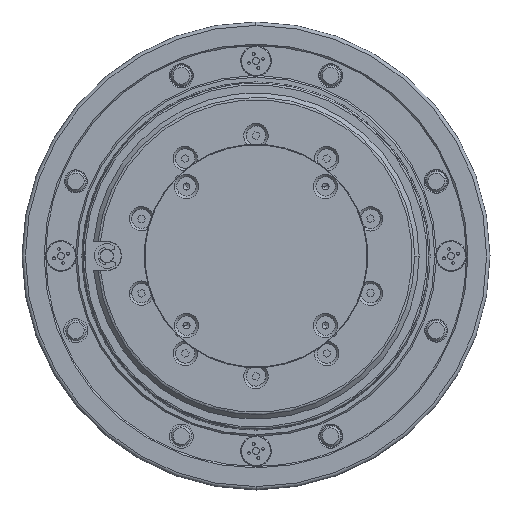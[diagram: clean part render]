
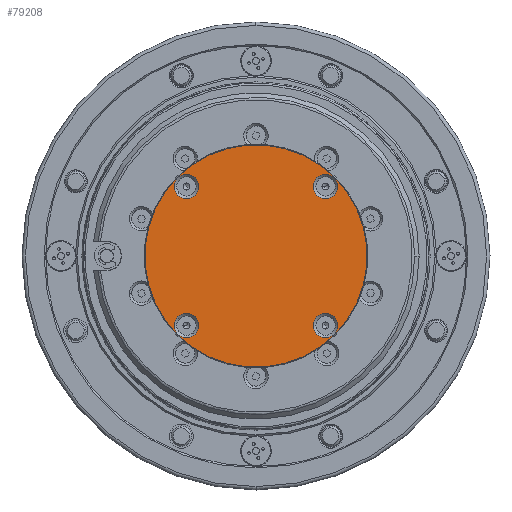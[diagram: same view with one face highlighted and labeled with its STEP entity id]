
A CAD part, left-side view. The second image highlights one B-rep face of the part: STEP entity #79208.
In plain terms, the highlighted planar face has unit normal (-1, 0, 0).
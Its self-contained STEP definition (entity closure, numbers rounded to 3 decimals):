
#44 = CARTESIAN_POINT ( 'NONE',  ( -26.329, 30.945, 17.961 ) ) ;
#512 = ORIENTED_EDGE ( 'NONE', *, *, #27270, .F. ) ;
#1016 = DIRECTION ( 'NONE',  ( -1., 0., 0. ) ) ;
#1201 = ORIENTED_EDGE ( 'NONE', *, *, #59165, .F. ) ;
#2564 = CIRCLE ( 'NONE', #5667, 3.6 ) ;
#2947 = VERTEX_POINT ( 'NONE', #87297 ) ;
#4201 = CARTESIAN_POINT ( 'NONE',  ( -26.329, 31.086, 23.193 ) ) ;
#4727 = CARTESIAN_POINT ( 'NONE',  ( -26.329, -12.613, 20.506 ) ) ;
#5667 = AXIS2_PLACEMENT_3D ( 'NONE', #92211, #110101, #83020 ) ;
#5922 = PLANE ( 'NONE',  #12122 ) ;
#6144 = CIRCLE ( 'NONE', #106060, 32.8 ) ;
#7225 = AXIS2_PLACEMENT_3D ( 'NONE', #32505, #110785, #31013 ) ;
#8671 = CARTESIAN_POINT ( 'NONE',  ( -26.329, 30.945, -17.961 ) ) ;
#9413 = DIRECTION ( 'NONE',  ( -1., 0., 0. ) ) ;
#10889 = CIRCLE ( 'NONE', #12951, 3.6 ) ;
#11512 = VERTEX_POINT ( 'NONE', #8671 ) ;
#12019 = ORIENTED_EDGE ( 'NONE', *, *, #93144, .T. ) ;
#12122 = AXIS2_PLACEMENT_3D ( 'NONE', #67040, #103750, #95366 ) ;
#12793 = VERTEX_POINT ( 'NONE', #4201 ) ;
#12885 = EDGE_CURVE ( 'NONE', #11512, #2947, #31906, .T. ) ;
#12951 = AXIS2_PLACEMENT_3D ( 'NONE', #37502, #20663, #29449 ) ;
#13553 = DIRECTION ( 'NONE',  ( -1., 0., 0. ) ) ;
#17104 = FACE_BOUND ( 'NONE', #46195, .T. ) ;
#17317 = DIRECTION ( 'NONE',  ( 0., -0.707, 0.707 ) ) ;
#17568 = ORIENTED_EDGE ( 'NONE', *, *, #59464, .F. ) ;
#17689 = DIRECTION ( 'NONE',  ( 0., -0.707, 0.707 ) ) ;
#18041 = EDGE_LOOP ( 'NONE', ( #32983, #90689 ) ) ;
#18056 = AXIS2_PLACEMENT_3D ( 'NONE', #35854, #1016, #89667 ) ;
#18255 = CARTESIAN_POINT ( 'NONE',  ( -26.329, 7.893, 0. ) ) ;
#19201 = CIRCLE ( 'NONE', #35366, 3.6 ) ;
#20537 = CIRCLE ( 'NONE', #82244, 3.6 ) ;
#20663 = DIRECTION ( 'NONE',  ( -1., 0., 0. ) ) ;
#20812 = CARTESIAN_POINT ( 'NONE',  ( -26.329, 28.399, 20.506 ) ) ;
#22560 = FACE_BOUND ( 'NONE', #65501, .T. ) ;
#23956 = EDGE_CURVE ( 'NONE', #2947, #11512, #2564, .T. ) ;
#25735 = DIRECTION ( 'NONE',  ( -1., 0., 0. ) ) ;
#25862 = DIRECTION ( 'NONE',  ( 0., 0.707, 0.707 ) ) ;
#26139 = CARTESIAN_POINT ( 'NONE',  ( -26.329, -10.068, -23.052 ) ) ;
#26389 = CIRCLE ( 'NONE', #54984, 3.6 ) ;
#27270 = EDGE_CURVE ( 'NONE', #67850, #30898, #26389, .T. ) ;
#29449 = DIRECTION ( 'NONE',  ( 0., 0.707, -0.707 ) ) ;
#30341 = DIRECTION ( 'NONE',  ( 0., 0.707, -0.707 ) ) ;
#30860 = CARTESIAN_POINT ( 'NONE',  ( -26.329, -15.159, -17.961 ) ) ;
#30898 = VERTEX_POINT ( 'NONE', #84058 ) ;
#31013 = DIRECTION ( 'NONE',  ( 0., -0.707, -0.707 ) ) ;
#31906 = CIRCLE ( 'NONE', #7225, 3.6 ) ;
#32087 = FACE_BOUND ( 'NONE', #18041, .T. ) ;
#32505 = CARTESIAN_POINT ( 'NONE',  ( -26.329, 28.399, -20.506 ) ) ;
#32983 = ORIENTED_EDGE ( 'NONE', *, *, #63525, .F. ) ;
#35091 = EDGE_CURVE ( 'NONE', #109130, #51725, #75942, .T. ) ;
#35366 = AXIS2_PLACEMENT_3D ( 'NONE', #42979, #70098, #25862 ) ;
#35854 = CARTESIAN_POINT ( 'NONE',  ( -26.329, 7.893, 0. ) ) ;
#37502 = CARTESIAN_POINT ( 'NONE',  ( -26.329, 28.399, 20.506 ) ) ;
#40255 = DIRECTION ( 'NONE',  ( 0., 0.707, 0.707 ) ) ;
#42979 = CARTESIAN_POINT ( 'NONE',  ( -26.329, -12.613, 20.506 ) ) ;
#43225 = CARTESIAN_POINT ( 'NONE',  ( -26.329, -12.613, -20.506 ) ) ;
#43875 = CARTESIAN_POINT ( 'NONE',  ( -26.329, -10.068, 23.052 ) ) ;
#43977 = DIRECTION ( 'NONE',  ( -1., 0., 0. ) ) ;
#45250 = CARTESIAN_POINT ( 'NONE',  ( -26.329, -15.3, -23.193 ) ) ;
#45749 = FACE_BOUND ( 'NONE', #76723, .T. ) ;
#46195 = EDGE_LOOP ( 'NONE', ( #50856, #48131 ) ) ;
#48131 = ORIENTED_EDGE ( 'NONE', *, *, #12885, .F. ) ;
#50856 = ORIENTED_EDGE ( 'NONE', *, *, #23956, .F. ) ;
#51725 = VERTEX_POINT ( 'NONE', #30860 ) ;
#54984 = AXIS2_PLACEMENT_3D ( 'NONE', #20812, #13553, #30341 ) ;
#57353 = VERTEX_POINT ( 'NONE', #64990 ) ;
#59165 = EDGE_CURVE ( 'NONE', #51725, #109130, #64171, .T. ) ;
#59464 = EDGE_CURVE ( 'NONE', #30898, #67850, #10889, .T. ) ;
#60590 = DIRECTION ( 'NONE',  ( 0., -0.707, -0.707 ) ) ;
#63409 = FACE_OUTER_BOUND ( 'NONE', #102247, .T. ) ;
#63525 = EDGE_CURVE ( 'NONE', #99728, #57353, #19201, .T. ) ;
#64171 = CIRCLE ( 'NONE', #104477, 3.6 ) ;
#64990 = CARTESIAN_POINT ( 'NONE',  ( -26.329, -15.159, 17.961 ) ) ;
#65501 = EDGE_LOOP ( 'NONE', ( #1201, #107321 ) ) ;
#67040 = CARTESIAN_POINT ( 'NONE',  ( -26.329, 7.893, 0. ) ) ;
#67850 = VERTEX_POINT ( 'NONE', #44 ) ;
#69569 = CARTESIAN_POINT ( 'NONE',  ( -26.329, -12.613, -20.506 ) ) ;
#70098 = DIRECTION ( 'NONE',  ( -1., 0., 0. ) ) ;
#71640 = ORIENTED_EDGE ( 'NONE', *, *, #91802, .T. ) ;
#75942 = CIRCLE ( 'NONE', #88119, 3.6 ) ;
#76723 = EDGE_LOOP ( 'NONE', ( #512, #17568 ) ) ;
#79208 = ADVANCED_FACE ( 'NONE', ( #45749, #17104, #22560, #32087, #63409 ), #5922, .F. ) ;
#82244 = AXIS2_PLACEMENT_3D ( 'NONE', #4727, #83454, #40255 ) ;
#83020 = DIRECTION ( 'NONE',  ( 0., -0.707, -0.707 ) ) ;
#83454 = DIRECTION ( 'NONE',  ( -1., 0., 0. ) ) ;
#84058 = CARTESIAN_POINT ( 'NONE',  ( -26.329, 25.853, 23.052 ) ) ;
#84678 = EDGE_CURVE ( 'NONE', #57353, #99728, #20537, .T. ) ;
#87297 = CARTESIAN_POINT ( 'NONE',  ( -26.329, 25.853, -23.052 ) ) ;
#88119 = AXIS2_PLACEMENT_3D ( 'NONE', #69569, #43977, #17317 ) ;
#89667 = DIRECTION ( 'NONE',  ( 0., -0.707, -0.707 ) ) ;
#90689 = ORIENTED_EDGE ( 'NONE', *, *, #84678, .F. ) ;
#91802 = EDGE_CURVE ( 'NONE', #112772, #12793, #104748, .T. ) ;
#92211 = CARTESIAN_POINT ( 'NONE',  ( -26.329, 28.399, -20.506 ) ) ;
#93144 = EDGE_CURVE ( 'NONE', #12793, #112772, #6144, .T. ) ;
#95366 = DIRECTION ( 'NONE',  ( 0., -0.707, -0.707 ) ) ;
#99728 = VERTEX_POINT ( 'NONE', #43875 ) ;
#102247 = EDGE_LOOP ( 'NONE', ( #71640, #12019 ) ) ;
#103750 = DIRECTION ( 'NONE',  ( 1., 0., 0. ) ) ;
#104477 = AXIS2_PLACEMENT_3D ( 'NONE', #43225, #25735, #17689 ) ;
#104748 = CIRCLE ( 'NONE', #18056, 32.8 ) ;
#106060 = AXIS2_PLACEMENT_3D ( 'NONE', #18255, #9413, #60590 ) ;
#107321 = ORIENTED_EDGE ( 'NONE', *, *, #35091, .F. ) ;
#109130 = VERTEX_POINT ( 'NONE', #26139 ) ;
#110101 = DIRECTION ( 'NONE',  ( -1., 0., 0. ) ) ;
#110785 = DIRECTION ( 'NONE',  ( -1., 0., 0. ) ) ;
#112772 = VERTEX_POINT ( 'NONE', #45250 ) ;
